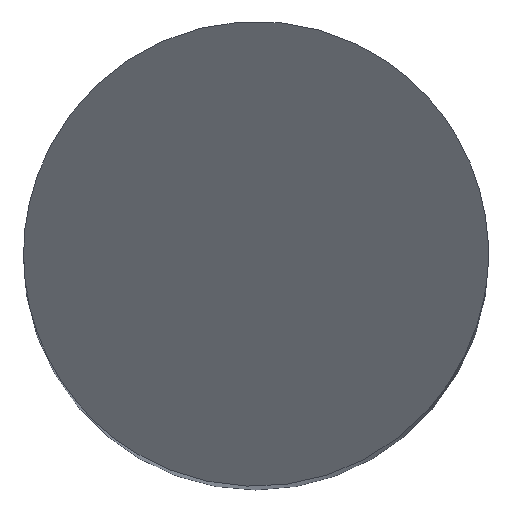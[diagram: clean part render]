
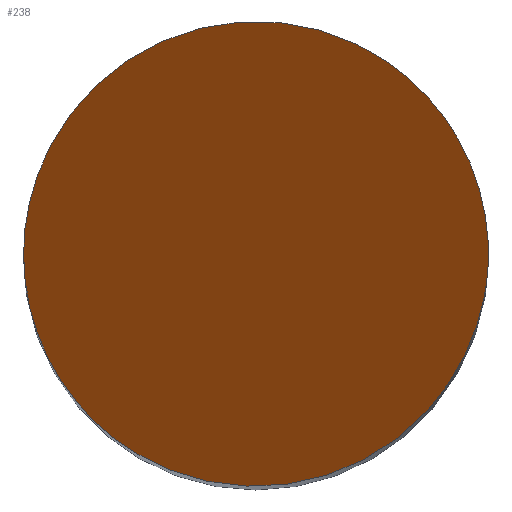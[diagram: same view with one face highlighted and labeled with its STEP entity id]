
A CAD part, top view. The second image highlights one B-rep face of the part: STEP entity #238.
In plain terms, the highlighted planar face has unit normal (-0.707, 0, 0.707).
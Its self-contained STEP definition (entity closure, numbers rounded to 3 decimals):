
#20=ELLIPSE('',#299,70.711,50.);
#21=ELLIPSE('',#300,70.711,50.);
#44=PLANE('',#301);
#69=FACE_OUTER_BOUND('',#92,.T.);
#92=EDGE_LOOP('',(#217,#218,#219));
#100=LINE('',#449,#109);
#109=VECTOR('',#377,10.);
#139=VERTEX_POINT('',#447);
#140=VERTEX_POINT('',#448);
#141=VERTEX_POINT('',#452);
#163=EDGE_CURVE('',#139,#140,#100,.T.);
#165=EDGE_CURVE('',#140,#141,#20,.T.);
#166=EDGE_CURVE('',#141,#139,#21,.T.);
#217=ORIENTED_EDGE('',*,*,#165,.T.);
#218=ORIENTED_EDGE('',*,*,#166,.T.);
#219=ORIENTED_EDGE('',*,*,#163,.T.);
#238=ADVANCED_FACE('',(#69),#44,.T.);
#299=AXIS2_PLACEMENT_3D('',#453,#382,#383);
#300=AXIS2_PLACEMENT_3D('',#454,#384,#385);
#301=AXIS2_PLACEMENT_3D('',#456,#387,#388);
#377=DIRECTION('',(0.,1.,0.));
#382=DIRECTION('center_axis',(-0.707,0.,0.707));
#383=DIRECTION('ref_axis',(0.707,0.,0.707));
#384=DIRECTION('center_axis',(-0.707,0.,0.707));
#385=DIRECTION('ref_axis',(0.707,0.,0.707));
#387=DIRECTION('center_axis',(-0.707,0.,0.707));
#388=DIRECTION('ref_axis',(0.707,0.,0.707));
#447=CARTESIAN_POINT('',(49.936,-2.527,505.));
#448=CARTESIAN_POINT('',(49.936,2.527,505.));
#449=CARTESIAN_POINT('',(49.936,0.,505.));
#452=CARTESIAN_POINT('',(-50.,0.,405.064));
#453=CARTESIAN_POINT('Origin',(0.,0.,455.064));
#454=CARTESIAN_POINT('Origin',(0.,0.,455.064));
#456=CARTESIAN_POINT('Origin',(-12.532,0.,442.532));
